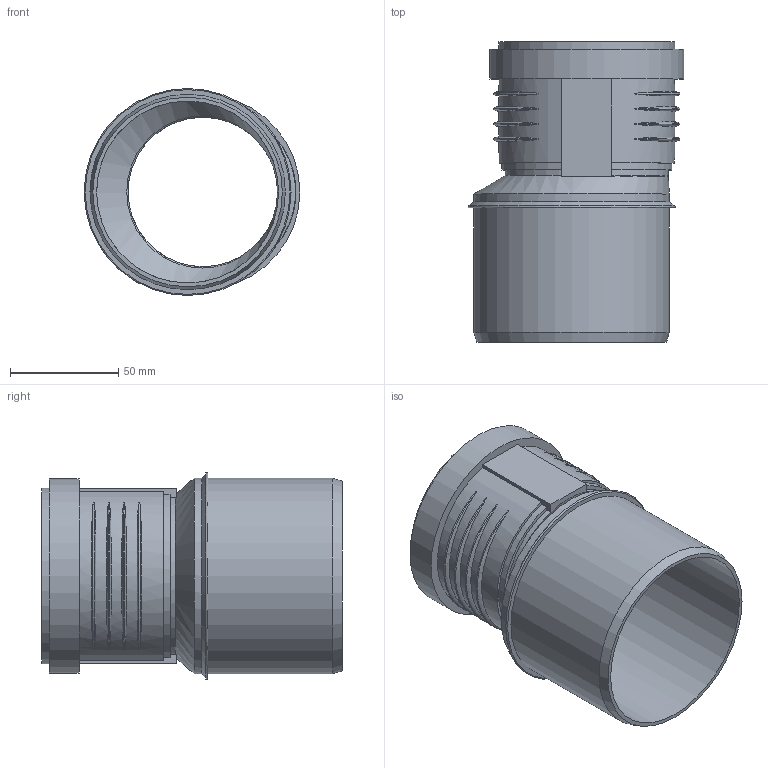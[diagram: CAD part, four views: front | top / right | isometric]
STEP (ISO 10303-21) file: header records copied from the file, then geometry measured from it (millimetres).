
FILE_DESCRIPTION(/* description */ (''),/* implementation_level */ '2;1');
FILE_NAME(/* name */ 'Z:\Geberit\Export\NewStep\390473.stp',/* time_stamp */ '2014-04-02T08:13:38+02:00',/* author */ ('ML'),/* organization */ (''),/* preprocessor_version */ 'ST-DEVELOPER v15.2',/* originating_system */ 'Autodesk Inventor 2014',/* authorisation */ '');
FILE_SCHEMA (('AUTOMOTIVE_DESIGN { 1 0 10303 214 3 1 1 }'));
Length unit declared in the file: millimetre
Products named in the file (3): 861306; 861402; 390473
Bounding box: 99.56 x 138.69 x 95.51 mm (x, y, z)
Volume: 116040 mm3; surface area: 86636.2 mm2
Topology: 2 solids, 2 shells, 68 faces, 162 edges, 112 vertices
Faces by surface type: torus 25, plane 20, cylinder 18, cone 3, bspline 2
Full cylindrical faces by diameter (mm): 69 x1, 70.2 x1, 75.2 x2, 76.2 x2, 81.2 x1, 84 x1, 84.6 x1, 89.6 x1, 90.2 x2
Entity records: 2726 total; most frequent: CARTESIAN_POINT 1117, DIRECTION 296, ORIENTED_EDGE 290, EDGE_CURVE 145, AXIS2_PLACEMENT_3D 130, VERTEX_POINT 111, EDGE_LOOP 102, STYLED_ITEM 68
